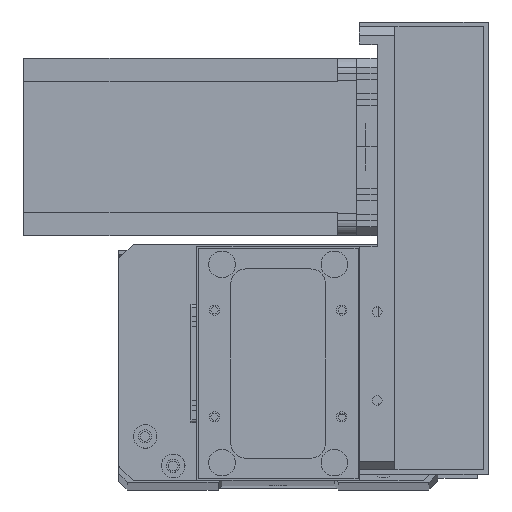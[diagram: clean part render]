
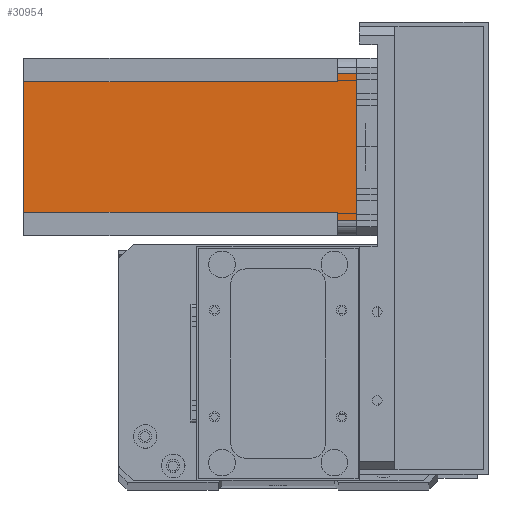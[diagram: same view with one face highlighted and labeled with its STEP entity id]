
A CAD part, top view. The second image highlights one B-rep face of the part: STEP entity #30954.
In plain terms, the highlighted planar face has unit normal (0, 0, 1) as drawn and (0, 1, 0) by its records, which use the part's own axes.
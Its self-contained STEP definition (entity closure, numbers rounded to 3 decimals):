
#280 = LINE ( 'NONE', #28890, #18848 ) ;
#387 = CARTESIAN_POINT ( 'NONE',  ( 8., 60., -6.5 ) ) ;
#762 = VECTOR ( 'NONE', #27575, 1000. ) ;
#1096 = CARTESIAN_POINT ( 'NONE',  ( 8., 60., -112.5 ) ) ;
#1314 = VECTOR ( 'NONE', #16064, 1000. ) ;
#1389 = LINE ( 'NONE', #1096, #13530 ) ;
#1930 = ORIENTED_EDGE ( 'NONE', *, *, #27161, .F. ) ;
#1933 = EDGE_LOOP ( 'NONE', ( #30312, #15072, #15272, #14046, #31224, #1930, #28556, #14103 ) ) ;
#2433 = EDGE_CURVE ( 'NONE', #18603, #4996, #16471, .T. ) ;
#3866 = FACE_OUTER_BOUND ( 'NONE', #1933, .T. ) ;
#4622 = VECTOR ( 'NONE', #7557, 1000. ) ;
#4996 = VERTEX_POINT ( 'NONE', #22038 ) ;
#5120 = CARTESIAN_POINT ( 'NONE',  ( 52., 60., -112.5 ) ) ;
#5288 = DIRECTION ( 'NONE',  ( -1., 0., 0. ) ) ;
#7019 = PLANE ( 'NONE',  #24672 ) ;
#7239 = LINE ( 'NONE', #15471, #762 ) ;
#7557 = DIRECTION ( 'NONE',  ( 0., 0., 1. ) ) ;
#7790 = LINE ( 'NONE', #23280, #1314 ) ;
#8048 = EDGE_CURVE ( 'NONE', #30518, #8467, #7790, .T. ) ;
#8467 = VERTEX_POINT ( 'NONE', #12764 ) ;
#9444 = DIRECTION ( 'NONE',  ( 0., 0., 1. ) ) ;
#10763 = DIRECTION ( 'NONE',  ( 0., 0., -1. ) ) ;
#11075 = LINE ( 'NONE', #5120, #4622 ) ;
#11206 = CARTESIAN_POINT ( 'NONE',  ( 55., 60., 0. ) ) ;
#11344 = VECTOR ( 'NONE', #5288, 1000. ) ;
#12115 = LINE ( 'NONE', #387, #11344 ) ;
#12389 = VERTEX_POINT ( 'NONE', #11206 ) ;
#12764 = CARTESIAN_POINT ( 'NONE',  ( 8., 60., -112.5 ) ) ;
#13530 = VECTOR ( 'NONE', #10763, 1000. ) ;
#13765 = CARTESIAN_POINT ( 'NONE',  ( 52., 60., -6.5 ) ) ;
#14046 = ORIENTED_EDGE ( 'NONE', *, *, #18737, .F. ) ;
#14103 = ORIENTED_EDGE ( 'NONE', *, *, #22383, .T. ) ;
#14495 = CARTESIAN_POINT ( 'NONE',  ( 52., 60., -6.5 ) ) ;
#15072 = ORIENTED_EDGE ( 'NONE', *, *, #16399, .T. ) ;
#15253 = VERTEX_POINT ( 'NONE', #27805 ) ;
#15272 = ORIENTED_EDGE ( 'NONE', *, *, #2433, .F. ) ;
#15469 = CARTESIAN_POINT ( 'NONE',  ( 8., 60., -6.5 ) ) ;
#15471 = CARTESIAN_POINT ( 'NONE',  ( 55., 60., -112.5 ) ) ;
#15602 = CARTESIAN_POINT ( 'NONE',  ( 5., 60., -112.5 ) ) ;
#16064 = DIRECTION ( 'NONE',  ( -1., 0., 0. ) ) ;
#16186 = DIRECTION ( 'NONE',  ( 1., 0., 0. ) ) ;
#16399 = EDGE_CURVE ( 'NONE', #12389, #4996, #7239, .T. ) ;
#16471 = LINE ( 'NONE', #13765, #28964 ) ;
#16886 = DIRECTION ( 'NONE',  ( -1., 0., 0. ) ) ;
#18603 = VERTEX_POINT ( 'NONE', #14495 ) ;
#18737 = EDGE_CURVE ( 'NONE', #30518, #18603, #11075, .T. ) ;
#18848 = VECTOR ( 'NONE', #16886, 1000. ) ;
#19049 = CARTESIAN_POINT ( 'NONE',  ( 0., 60., -112.5 ) ) ;
#19950 = LINE ( 'NONE', #15602, #26433 ) ;
#20621 = VERTEX_POINT ( 'NONE', #15469 ) ;
#21121 = EDGE_CURVE ( 'NONE', #20621, #15253, #12115, .T. ) ;
#21388 = DIRECTION ( 'NONE',  ( 0., 1., 0. ) ) ;
#22038 = CARTESIAN_POINT ( 'NONE',  ( 55., 60., -6.5 ) ) ;
#22383 = EDGE_CURVE ( 'NONE', #15253, #23940, #19950, .T. ) ;
#23280 = CARTESIAN_POINT ( 'NONE',  ( 0., 60., -112.5 ) ) ;
#23940 = VERTEX_POINT ( 'NONE', #27202 ) ;
#24672 = AXIS2_PLACEMENT_3D ( 'NONE', #19049, #21388, #9444 ) ;
#26426 = EDGE_CURVE ( 'NONE', #12389, #23940, #280, .T. ) ;
#26433 = VECTOR ( 'NONE', #30184, 1000. ) ;
#27161 = EDGE_CURVE ( 'NONE', #20621, #8467, #1389, .T. ) ;
#27202 = CARTESIAN_POINT ( 'NONE',  ( 5., 60., 0. ) ) ;
#27284 = CARTESIAN_POINT ( 'NONE',  ( 52., 60., -112.5 ) ) ;
#27575 = DIRECTION ( 'NONE',  ( 0., 0., -1. ) ) ;
#27805 = CARTESIAN_POINT ( 'NONE',  ( 5., 60., -6.5 ) ) ;
#28556 = ORIENTED_EDGE ( 'NONE', *, *, #21121, .T. ) ;
#28890 = CARTESIAN_POINT ( 'NONE',  ( 0., 60., 0. ) ) ;
#28964 = VECTOR ( 'NONE', #16186, 1000. ) ;
#30184 = DIRECTION ( 'NONE',  ( 0., 0., 1. ) ) ;
#30312 = ORIENTED_EDGE ( 'NONE', *, *, #26426, .F. ) ;
#30518 = VERTEX_POINT ( 'NONE', #27284 ) ;
#30954 = ADVANCED_FACE ( 'NONE', ( #3866 ), #7019, .T. ) ;
#31224 = ORIENTED_EDGE ( 'NONE', *, *, #8048, .T. ) ;
